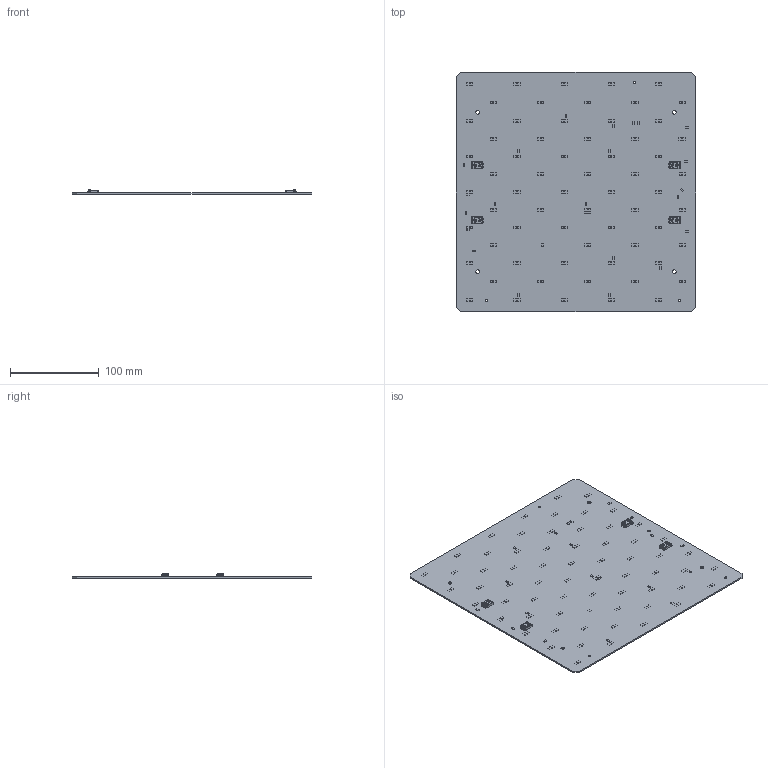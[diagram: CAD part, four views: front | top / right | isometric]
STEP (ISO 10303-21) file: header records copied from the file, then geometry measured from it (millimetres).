
FILE_DESCRIPTION((''),'2;1');
FILE_NAME('16207825_QLE-G2-TW-270X270','2017-09-20T',('bernhard.fink'),(''),'PRO/ENGINEER BY PARAMETRIC TECHNOLOGY CORPORATION, 2015200','PRO/ENGINEER BY PARAMETRIC TECHNOLOGY CORPORATION, 2015200','');
FILE_SCHEMA(('AUTOMOTIVE_DESIGN { 1 0 10303 214 1 1 1 1 }'));
Products named in the file (1): 16207825_QLE-G2-TW-270X270
Bounding box: 270 x 270 x 5.1 mm (x, y, z)
Surface area: 149810.2 mm2 (no closed solid volume)
Topology: 0 solids, 1 shells, 2424 faces, 6174 edges, 3908 vertices
Faces by surface type: plane 1390, cylinder 422, bspline 412, cone 120, torus 48, sphere 32
Entity records: 122868 total; most frequent: CARTESIAN_POINT 32192, ORIENTED_EDGE 12308, DIRECTION 9490, PRESENTATION_STYLE_ASSIGNMENT 8583, STYLED_ITEM 6155, CURVE_STYLE 6154, EDGE_CURVE 6154, VECTOR 4042
